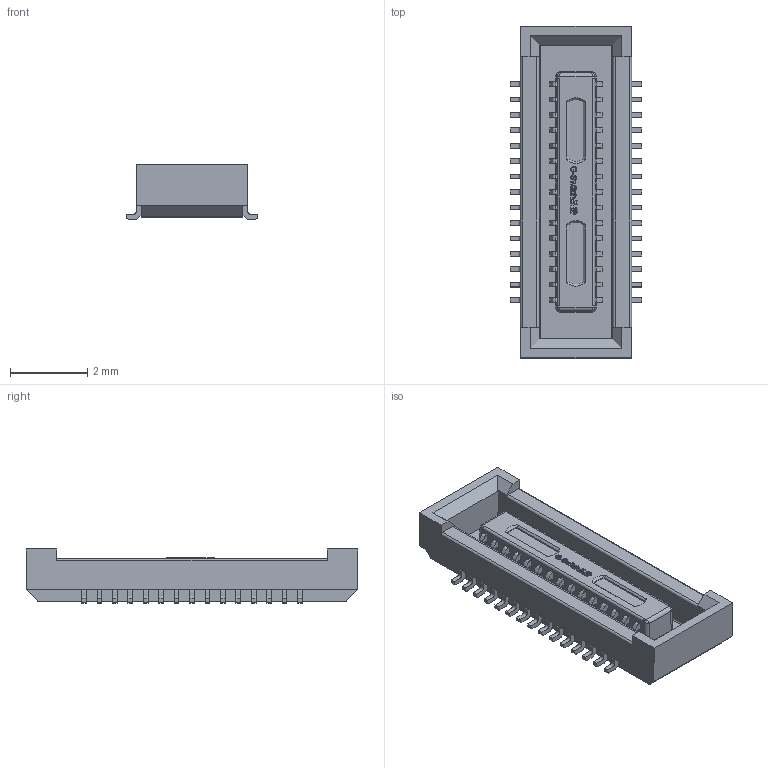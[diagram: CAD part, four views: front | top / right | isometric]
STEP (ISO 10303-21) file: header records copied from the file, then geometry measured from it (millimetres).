
FILE_DESCRIPTION (( 'STEP AP203' ), '1' );
FILE_NAME ('GT-B0403FSV14-XXXXX01.STEP', '2024-01-08T01:36:26', ( 'Microsoft' ), ( 'Microsoft' ), 'SwSTEP 2.0', 'SolidWorks 2023', '' );
FILE_SCHEMA (( 'CONFIG_CONTROL_DESIGN' ));
Length unit declared in the file: millimetre
Products named in the file (1): GT-B0403FSV14-XXXXX01
Bounding box: 3.42 x 8.6 x 1.4 mm (x, y, z)
Volume: 20.4 mm3; surface area: 114.2 mm2
Topology: 1 solids, 1 shells, 621 faces, 1680 edges, 1106 vertices
Faces by surface type: plane 367, bspline 202, cylinder 40, cone 12
Entity records: 30177 total; most frequent: CARTESIAN_POINT 16264, ORIENTED_EDGE 3344, DIRECTION 2160, EDGE_CURVE 1672, LINE 1156, VECTOR 1156, VERTEX_POINT 1106, EDGE_LOOP 674
